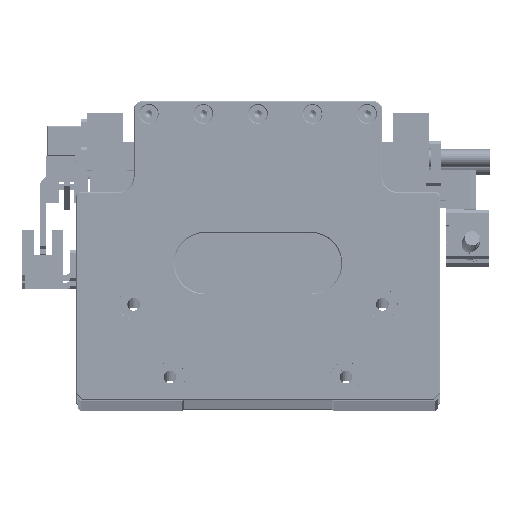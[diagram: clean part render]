
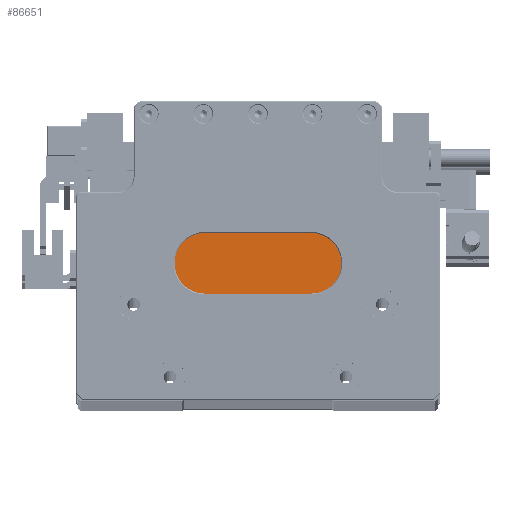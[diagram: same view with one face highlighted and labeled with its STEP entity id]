
A CAD part, top view. The second image highlights one B-rep face of the part: STEP entity #86651.
In plain terms, the highlighted planar face has unit normal (0, 0, 1).
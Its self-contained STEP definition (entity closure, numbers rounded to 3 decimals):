
#1953 = VERTEX_POINT ( 'NONE', #79481 ) ;
#2794 = LINE ( 'NONE', #71185, #134272 ) ;
#6095 = DIRECTION ( 'NONE',  ( 0., 0., 1. ) ) ;
#6680 = CIRCLE ( 'NONE', #84889, 1.25 ) ;
#8538 = DIRECTION ( 'NONE',  ( -1., 0., 0. ) ) ;
#8992 = DIRECTION ( 'NONE',  ( -1., 0., 0. ) ) ;
#11717 = ORIENTED_EDGE ( 'NONE', *, *, #57487, .T. ) ;
#12599 = DIRECTION ( 'NONE',  ( 0., 0., -1. ) ) ;
#13702 = VERTEX_POINT ( 'NONE', #93634 ) ;
#13875 = EDGE_CURVE ( 'NONE', #66335, #15449, #15958, .T. ) ;
#14008 = DIRECTION ( 'NONE',  ( 0., -1., 0. ) ) ;
#15449 = VERTEX_POINT ( 'NONE', #39936 ) ;
#15498 = FACE_BOUND ( 'NONE', #42399, .T. ) ;
#15594 = DIRECTION ( 'NONE',  ( 0., 1., 0. ) ) ;
#15679 = EDGE_CURVE ( 'NONE', #46310, #68622, #6680, .T. ) ;
#15958 = CIRCLE ( 'NONE', #128221, 1.25 ) ;
#22708 = CARTESIAN_POINT ( 'NONE',  ( -23.132, -17.023, 375. ) ) ;
#24044 = CARTESIAN_POINT ( 'NONE',  ( -4.632, -17.023, 375. ) ) ;
#24125 = ORIENTED_EDGE ( 'NONE', *, *, #13875, .T. ) ;
#25808 = ORIENTED_EDGE ( 'NONE', *, *, #92111, .T. ) ;
#27892 = CIRCLE ( 'NONE', #34911, 1.25 ) ;
#34704 = CARTESIAN_POINT ( 'NONE',  ( 2.868, -17.023, 375. ) ) ;
#34911 = AXIS2_PLACEMENT_3D ( 'NONE', #98177, #36165, #108610 ) ;
#35563 = AXIS2_PLACEMENT_3D ( 'NONE', #52073, #124544, #62531 ) ;
#36165 = DIRECTION ( 'NONE',  ( 0., 0., -1. ) ) ;
#36233 = DIRECTION ( 'NONE',  ( 1., 0., 0. ) ) ;
#37360 = EDGE_CURVE ( 'NONE', #68622, #46310, #27892, .T. ) ;
#37805 = CARTESIAN_POINT ( 'NONE',  ( 13.868, -9.223, 375. ) ) ;
#39936 = CARTESIAN_POINT ( 'NONE',  ( 4.118, -17.023, 375. ) ) ;
#40278 = LINE ( 'NONE', #132858, #67841 ) ;
#41978 = DIRECTION ( 'NONE',  ( 0., 1., 0. ) ) ;
#42399 = EDGE_LOOP ( 'NONE', ( #124149, #95761 ) ) ;
#42975 = VERTEX_POINT ( 'NONE', #98091 ) ;
#44201 = DIRECTION ( 'NONE',  ( 0., -1., 0. ) ) ;
#45206 = DIRECTION ( 'NONE',  ( 1., 0., 0. ) ) ;
#46310 = VERTEX_POINT ( 'NONE', #120640 ) ;
#50388 = VECTOR ( 'NONE', #41978, 1000. ) ;
#52073 = CARTESIAN_POINT ( 'NONE',  ( 2.868, -17.023, 375. ) ) ;
#53265 = VECTOR ( 'NONE', #44201, 1000. ) ;
#53305 = CARTESIAN_POINT ( 'NONE',  ( -34.432, -49.223, 375. ) ) ;
#55033 = LINE ( 'NONE', #76149, #110083 ) ;
#57031 = ORIENTED_EDGE ( 'NONE', *, *, #99851, .T. ) ;
#57487 = EDGE_CURVE ( 'NONE', #112688, #13702, #134472, .T. ) ;
#62531 = DIRECTION ( 'NONE',  ( 1., 0., 0. ) ) ;
#64277 = FACE_BOUND ( 'NONE', #103943, .T. ) ;
#64980 = ORIENTED_EDGE ( 'NONE', *, *, #90320, .T. ) ;
#66182 = EDGE_CURVE ( 'NONE', #121139, #42975, #73701, .T. ) ;
#66335 = VERTEX_POINT ( 'NONE', #107168 ) ;
#67841 = VECTOR ( 'NONE', #8538, 1000. ) ;
#68292 = PLANE ( 'NONE',  #118612 ) ;
#68622 = VERTEX_POINT ( 'NONE', #128703 ) ;
#71185 = CARTESIAN_POINT ( 'NONE',  ( -4.632, -9.223, 375. ) ) ;
#71286 = VERTEX_POINT ( 'NONE', #37805 ) ;
#73701 = LINE ( 'NONE', #88285, #97922 ) ;
#74739 = CARTESIAN_POINT ( 'NONE',  ( -12.132, -17.023, 375. ) ) ;
#75731 = DIRECTION ( 'NONE',  ( -1., 0., 0. ) ) ;
#76149 = CARTESIAN_POINT ( 'NONE',  ( -34.432, -9.023, 375. ) ) ;
#77534 = LINE ( 'NONE', #106138, #53265 ) ;
#77906 = LINE ( 'NONE', #83093, #50388 ) ;
#78571 = VECTOR ( 'NONE', #15594, 1000. ) ;
#78651 = DIRECTION ( 'NONE',  ( 1., 0., 0. ) ) ;
#79481 = CARTESIAN_POINT ( 'NONE',  ( 25.168, -17.023, 375. ) ) ;
#82584 = EDGE_CURVE ( 'NONE', #71286, #101001, #2794, .T. ) ;
#83093 = CARTESIAN_POINT ( 'NONE',  ( 13.868, -9.023, 375. ) ) ;
#84889 = AXIS2_PLACEMENT_3D ( 'NONE', #74739, #12599, #85110 ) ;
#85110 = DIRECTION ( 'NONE',  ( 1., 0., 0. ) ) ;
#86651 = ADVANCED_FACE ( 'NONE', ( #116061, #64277, #15498 ), #68292, .T. ) ;
#88285 = CARTESIAN_POINT ( 'NONE',  ( -34.632, -49.223, 375. ) ) ;
#88591 = ORIENTED_EDGE ( 'NONE', *, *, #94690, .T. ) ;
#90320 = EDGE_CURVE ( 'NONE', #125995, #71286, #77906, .T. ) ;
#91949 = ORIENTED_EDGE ( 'NONE', *, *, #66182, .T. ) ;
#92111 = EDGE_CURVE ( 'NONE', #101001, #112688, #77534, .T. ) ;
#93634 = CARTESIAN_POINT ( 'NONE',  ( -34.432, -17.023, 375. ) ) ;
#94690 = EDGE_CURVE ( 'NONE', #42975, #1953, #133756, .T. ) ;
#95761 = ORIENTED_EDGE ( 'NONE', *, *, #37360, .T. ) ;
#97922 = VECTOR ( 'NONE', #36233, 1000. ) ;
#98091 = CARTESIAN_POINT ( 'NONE',  ( 25.168, -49.223, 375. ) ) ;
#98177 = CARTESIAN_POINT ( 'NONE',  ( -12.132, -17.023, 375. ) ) ;
#98548 = CARTESIAN_POINT ( 'NONE',  ( 25.168, -9.023, 375. ) ) ;
#99851 = EDGE_CURVE ( 'NONE', #15449, #66335, #112587, .T. ) ;
#100278 = VECTOR ( 'NONE', #75731, 1000. ) ;
#101001 = VERTEX_POINT ( 'NONE', #104249 ) ;
#103943 = EDGE_LOOP ( 'NONE', ( #57031, #24125 ) ) ;
#104249 = CARTESIAN_POINT ( 'NONE',  ( -23.132, -9.223, 375. ) ) ;
#106138 = CARTESIAN_POINT ( 'NONE',  ( -23.132, -9.023, 375. ) ) ;
#107142 = DIRECTION ( 'NONE',  ( 0., 0., -1. ) ) ;
#107168 = CARTESIAN_POINT ( 'NONE',  ( 1.618, -17.023, 375. ) ) ;
#107896 = ORIENTED_EDGE ( 'NONE', *, *, #82584, .T. ) ;
#108610 = DIRECTION ( 'NONE',  ( 1., 0., 0. ) ) ;
#110083 = VECTOR ( 'NONE', #14008, 1000. ) ;
#112587 = CIRCLE ( 'NONE', #35563, 1.25 ) ;
#112688 = VERTEX_POINT ( 'NONE', #22708 ) ;
#113328 = CARTESIAN_POINT ( 'NONE',  ( 13.868, -17.023, 375. ) ) ;
#115526 = EDGE_CURVE ( 'NONE', #13702, #121139, #55033, .T. ) ;
#116061 = FACE_OUTER_BOUND ( 'NONE', #121636, .T. ) ;
#118612 = AXIS2_PLACEMENT_3D ( 'NONE', #119855, #6095, #78651 ) ;
#119855 = CARTESIAN_POINT ( 'NONE',  ( -4.632, -9.023, 375. ) ) ;
#120640 = CARTESIAN_POINT ( 'NONE',  ( -10.882, -17.023, 375. ) ) ;
#121139 = VERTEX_POINT ( 'NONE', #53305 ) ;
#121636 = EDGE_LOOP ( 'NONE', ( #107896, #25808, #11717, #126002, #91949, #88591, #126382, #64980 ) ) ;
#124149 = ORIENTED_EDGE ( 'NONE', *, *, #15679, .T. ) ;
#124544 = DIRECTION ( 'NONE',  ( 0., 0., -1. ) ) ;
#125995 = VERTEX_POINT ( 'NONE', #113328 ) ;
#126002 = ORIENTED_EDGE ( 'NONE', *, *, #115526, .T. ) ;
#126382 = ORIENTED_EDGE ( 'NONE', *, *, #132080, .T. ) ;
#128221 = AXIS2_PLACEMENT_3D ( 'NONE', #34704, #107142, #45206 ) ;
#128703 = CARTESIAN_POINT ( 'NONE',  ( -13.382, -17.023, 375. ) ) ;
#132080 = EDGE_CURVE ( 'NONE', #1953, #125995, #40278, .T. ) ;
#132858 = CARTESIAN_POINT ( 'NONE',  ( -4.632, -17.023, 375. ) ) ;
#133756 = LINE ( 'NONE', #98548, #78571 ) ;
#134272 = VECTOR ( 'NONE', #8992, 1000. ) ;
#134472 = LINE ( 'NONE', #24044, #100278 ) ;
